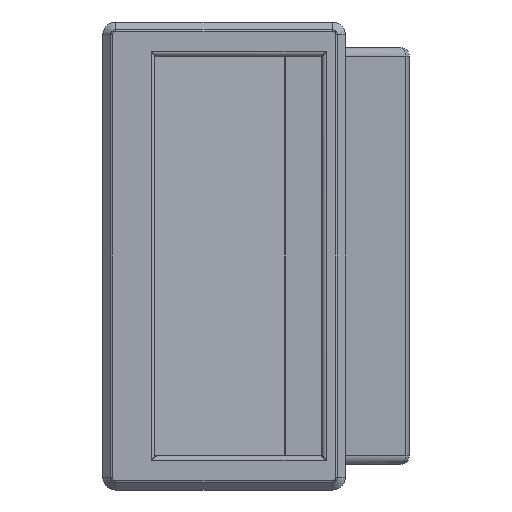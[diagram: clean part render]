
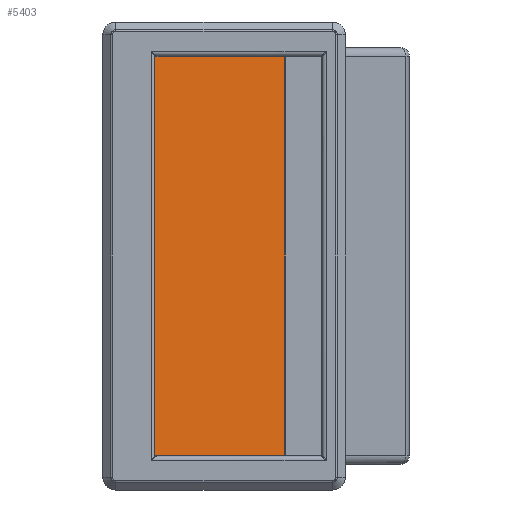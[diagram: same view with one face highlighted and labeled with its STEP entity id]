
A CAD part, front view. The second image highlights one B-rep face of the part: STEP entity #5403.
In plain terms, the highlighted planar face has unit normal (0.695, -0.719, 0).
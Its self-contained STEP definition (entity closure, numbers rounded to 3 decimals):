
#382 = PLANE ( 'NONE',  #986 ) ;
#555 = CARTESIAN_POINT ( 'NONE',  ( 12.1, -1.719, 102.165 ) ) ;
#571 = DIRECTION ( 'NONE',  ( 0., 0., -1. ) ) ;
#722 = CARTESIAN_POINT ( 'NONE',  ( 12.991, -0.856, 8.2 ) ) ;
#866 = VECTOR ( 'NONE', #571, 1000. ) ;
#986 = AXIS2_PLACEMENT_3D ( 'NONE', #8357, #6692, #9681 ) ;
#1251 = CARTESIAN_POINT ( 'NONE',  ( 12.1, -1.719, 7.835 ) ) ;
#1341 = EDGE_CURVE ( 'NONE', #8386, #9650, #11180, .T. ) ;
#2617 = CARTESIAN_POINT ( 'NONE',  ( 12.1, -1.719, 7.835 ) ) ;
#3100 = DIRECTION ( 'NONE',  ( 0.719, 0.695, 0. ) ) ;
#3507 = EDGE_CURVE ( 'NONE', #11554, #8386, #9308, .T. ) ;
#3674 = CARTESIAN_POINT ( 'NONE',  ( 12.991, -0.856, 8.2 ) ) ;
#3828 = CARTESIAN_POINT ( 'NONE',  ( 12.337, -1.489, 8.071 ) ) ;
#3843 = EDGE_CURVE ( 'NONE', #8255, #12618, #9080, .T. ) ;
#3875 = EDGE_CURVE ( 'NONE', #12618, #10009, #9819, .T. ) ;
#4414 = ORIENTED_EDGE ( 'NONE', *, *, #3875, .T. ) ;
#4615 = DIRECTION ( 'NONE',  ( -0.719, -0.695, 0. ) ) ;
#5403 = ADVANCED_FACE ( 'NONE', ( #9849 ), #382, .T. ) ;
#5527 = CARTESIAN_POINT ( 'NONE',  ( 12.991, -0.856, 101.8 ) ) ;
#6099 = VECTOR ( 'NONE', #4615, 1000. ) ;
#6487 = VECTOR ( 'NONE', #12106, 1000. ) ;
#6543 = EDGE_CURVE ( 'NONE', #10009, #11554, #11478, .T. ) ;
#6567 = LINE ( 'NONE', #10610, #6099 ) ;
#6692 = DIRECTION ( 'NONE',  ( 0.695, -0.719, 0. ) ) ;
#6903 = CARTESIAN_POINT ( 'NONE',  ( 12.1, -1.719, 178.598 ) ) ;
#7156 = CARTESIAN_POINT ( 'NONE',  ( 42.751, 27.944, 101.8 ) ) ;
#7399 = EDGE_CURVE ( 'NONE', #9650, #8255, #6567, .T. ) ;
#8255 = VERTEX_POINT ( 'NONE', #5527 ) ;
#8357 = CARTESIAN_POINT ( 'NONE',  ( 6.711, -6.934, 178.598 ) ) ;
#8386 = VERTEX_POINT ( 'NONE', #10167 ) ;
#8585 = ORIENTED_EDGE ( 'NONE', *, *, #3843, .T. ) ;
#8619 = CARTESIAN_POINT ( 'NONE',  ( 12.651, -1.186, 101.8 ) ) ;
#8829 = CARTESIAN_POINT ( 'NONE',  ( 12.337, -1.489, 101.929 ) ) ;
#8954 = CARTESIAN_POINT ( 'NONE',  ( 12.991, -0.856, 101.8 ) ) ;
#9080 =( BOUNDED_CURVE ( )  B_SPLINE_CURVE ( 3, ( #8954, #8619, #8829, #9393 ),
 .UNSPECIFIED., .F., .T. ) 
 B_SPLINE_CURVE_WITH_KNOTS ( ( 4, 4 ),
 ( 1.571, 2.373 ),
 .UNSPECIFIED. ) 
 CURVE ( )  GEOMETRIC_REPRESENTATION_ITEM ( )  RATIONAL_B_SPLINE_CURVE ( ( 1., 0.947, 0.947, 1. ) ) 
 REPRESENTATION_ITEM ( '' )  );
#9308 = LINE ( 'NONE', #12591, #12151 ) ;
#9393 = CARTESIAN_POINT ( 'NONE',  ( 12.1, -1.719, 102.165 ) ) ;
#9461 = ORIENTED_EDGE ( 'NONE', *, *, #7399, .T. ) ;
#9650 = VERTEX_POINT ( 'NONE', #7156 ) ;
#9681 = DIRECTION ( 'NONE',  ( 0.719, 0.695, 0. ) ) ;
#9819 = LINE ( 'NONE', #6903, #866 ) ;
#9849 = FACE_OUTER_BOUND ( 'NONE', #10630, .T. ) ;
#10009 = VERTEX_POINT ( 'NONE', #2617 ) ;
#10167 = CARTESIAN_POINT ( 'NONE',  ( 42.751, 27.944, 8.2 ) ) ;
#10350 = ORIENTED_EDGE ( 'NONE', *, *, #1341, .T. ) ;
#10610 = CARTESIAN_POINT ( 'NONE',  ( 6.711, -6.934, 101.8 ) ) ;
#10630 = EDGE_LOOP ( 'NONE', ( #9461, #8585, #4414, #11133, #11902, #10350 ) ) ;
#11133 = ORIENTED_EDGE ( 'NONE', *, *, #6543, .T. ) ;
#11180 = LINE ( 'NONE', #12043, #6487 ) ;
#11478 =( BOUNDED_CURVE ( )  B_SPLINE_CURVE ( 3, ( #1251, #3828, #11788, #722 ),
 .UNSPECIFIED., .F., .F. ) 
 B_SPLINE_CURVE_WITH_KNOTS ( ( 4, 4 ),
 ( 0.769, 1.571 ),
 .UNSPECIFIED. ) 
 CURVE ( )  GEOMETRIC_REPRESENTATION_ITEM ( )  RATIONAL_B_SPLINE_CURVE ( ( 1., 0.947, 0.947, 1. ) ) 
 REPRESENTATION_ITEM ( '' )  );
#11554 = VERTEX_POINT ( 'NONE', #3674 ) ;
#11788 = CARTESIAN_POINT ( 'NONE',  ( 12.651, -1.186, 8.2 ) ) ;
#11902 = ORIENTED_EDGE ( 'NONE', *, *, #3507, .T. ) ;
#12043 = CARTESIAN_POINT ( 'NONE',  ( 42.751, 27.944, 102. ) ) ;
#12106 = DIRECTION ( 'NONE',  ( 0., 0., 1. ) ) ;
#12151 = VECTOR ( 'NONE', #3100, 1000. ) ;
#12591 = CARTESIAN_POINT ( 'NONE',  ( 6.711, -6.934, 8.2 ) ) ;
#12618 = VERTEX_POINT ( 'NONE', #555 ) ;
